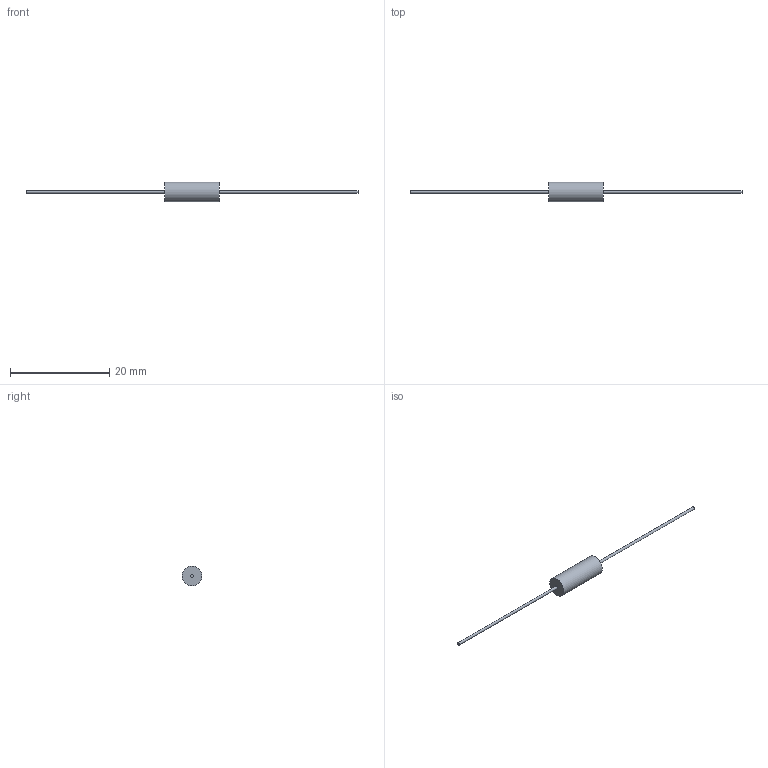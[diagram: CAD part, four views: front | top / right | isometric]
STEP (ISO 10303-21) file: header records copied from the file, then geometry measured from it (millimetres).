
FILE_DESCRIPTION(/* description */ (''),/* implementation_level */ '2;1');
FILE_NAME(/* name */ 'C:\Users\mulla\Documents\SEI Models\Inventor Files\HVA\3D\HVA12_stp.stp',/* time_stamp */ '2019-06-12T13:00:51-04:00',/* author */ ('mulla'),/* organization */ (''),/* preprocessor_version */ 'ST-DEVELOPER v16.1',/* originating_system */ 'Autodesk Inventor 2016',/* authorisation */ '');
FILE_SCHEMA (('AUTOMOTIVE_DESIGN { 1 0 10303 214 3 1 1 }'));
Length unit declared in the file: millimetre
Products named in the file (1): HVA12
Bounding box: 67 x 4 x 4 mm (x, y, z)
Volume: 151.5 mm3; surface area: 261.1 mm2
Topology: 3 solids, 3 shells, 9 faces, 9 edges, 6 vertices
Faces by surface type: plane 6, cylinder 3
Full cylindrical faces by diameter (mm): 0.55 x2, 4 x1
Entity records: 186 total; most frequent: DIRECTION 32, CARTESIAN_POINT 22, AXIS2_PLACEMENT_3D 16, EDGE_LOOP 12, ORIENTED_EDGE 12, FACE_OUTER_BOUND 9, ADVANCED_FACE 9, PLANE 6
